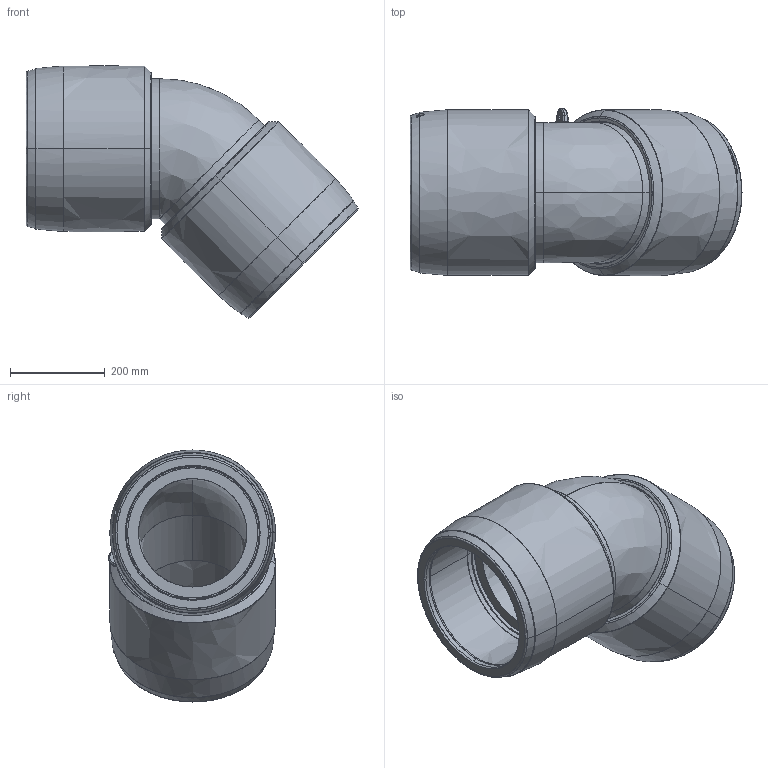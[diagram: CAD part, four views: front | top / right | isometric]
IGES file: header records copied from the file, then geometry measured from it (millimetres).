
Start section:  PTC IGES file: w45-xl_d280.igs
Global section: file name: w45-xl_d280.igs; native system: Pro/ENGINEER by Parametric Technology Corporation; preprocessor: 2011490; author: mtunjic; organization: Unknown; date: 20130729.150516; units: millimetre
Bounding box: 701.54 x 352.99 x 532.54 mm (x, y, z)
Surface area: 1823161.6 mm2 (no closed solid volume)
Topology: 0 solids, 0 shells, 517 faces, 2570 edges, 2568 vertices
Faces by surface type: bspline 517
